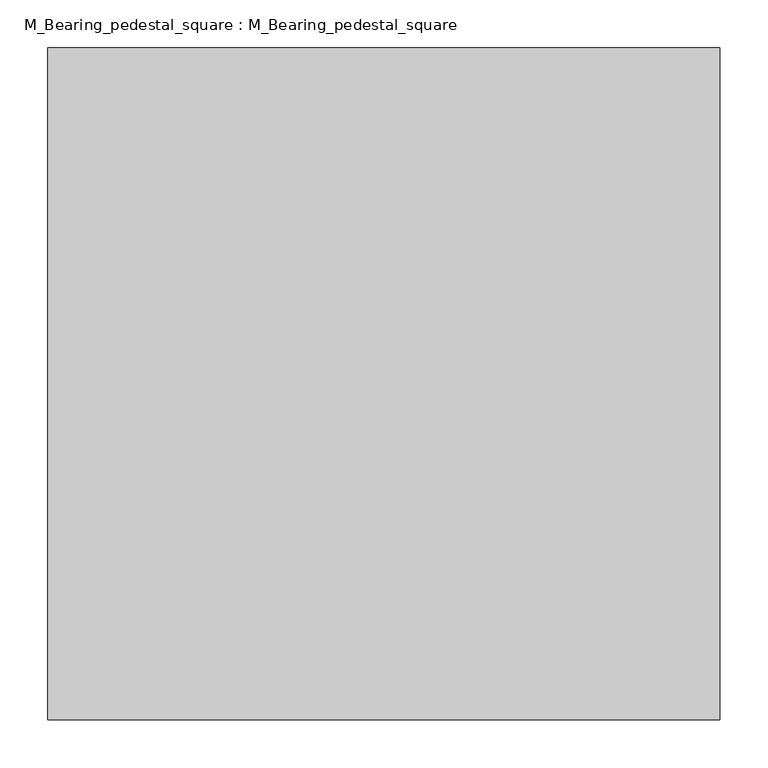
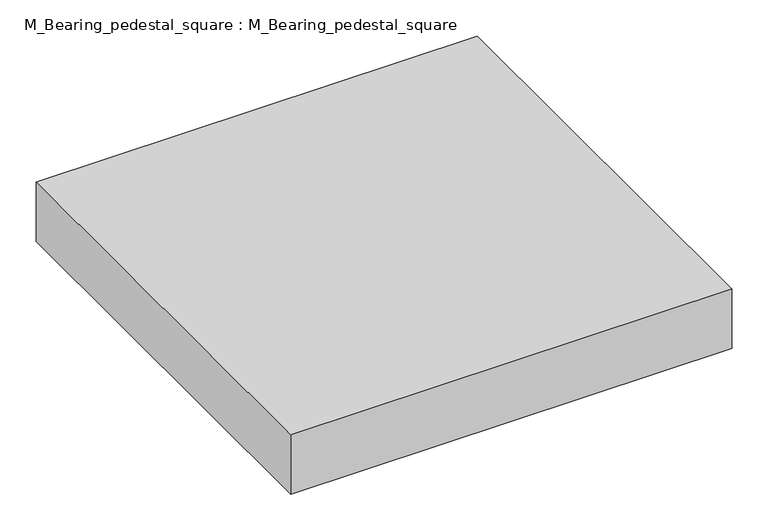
"""IFC4 building model written with IfcOpenShell, lengths in millimetres: proxy geometry, M_Bearing_pedestal_square : M_Bearing_pedestal_square."""

import ifcopenshell
import ifcopenshell.guid

model = None  # the IFC model being written
_history = None  # IfcOwnerHistory: only IFC2X3 demands one
_inside = {}  # id of a spatial element -> (the spatial element, [elements in it])
_under = {}  # id of a project, library or spatial element -> (it, [spatial elements below it])
_declared = {}  # id of a project -> (the project, [libraries it declares])
_typed = {}  # id of a type object -> (the type object, [elements of that type])
_made_of = {}  # id of a material, layer set ... -> (it, [elements and type objects made of it])


def new_model(schema):
    """Start an empty IFC model of exactly this schema.

    Asked for "IFC4X3", IfcOpenShell would pick the latest addendum, in which some entities
    have other attributes; the version numbers below select the first issue.
    IFC2X3 requires an IfcOwnerHistory on every rooted entity: one is made here for all.
    """
    global model, _history
    if schema == "IFC4X3":
        model = ifcopenshell.file(schema_version=(4, 3, 0, 0))
    else:
        model = ifcopenshell.file(schema=schema)
    _inside.clear()
    _under.clear()
    _declared.clear()
    _typed.clear()
    _made_of.clear()
    _history = None
    if model.schema == "IFC2X3":
        org = make("IfcOrganization", Name="unknown")
        user = make(
            "IfcPersonAndOrganization",
            ThePerson=make("IfcPerson", FamilyName="unknown"),
            TheOrganization=org,
        )
        app = make(
            "IfcApplication",
            ApplicationDeveloper=org,
            Version="unknown",
            ApplicationFullName="unknown",
            ApplicationIdentifier="unknown",
        )
        _history = make(
            "IfcOwnerHistory",
            OwningUser=user,
            OwningApplication=app,
            ChangeAction="ADDED",
            CreationDate=0,
        )
    return model


def make(cls, **values):
    """One entity of the class cls with the attributes given. An attribute that is None is left unset."""
    return model.create_entity(
        cls, **{name: value for name, value in values.items() if value is not None}
    )


def rooted(cls, **values):
    """An entity with a GlobalId (a new one), such as an element, a storey or a relation."""
    return make(cls, GlobalId=ifcopenshell.guid.new(), OwnerHistory=_history, **values)


def si_unit(unit_type, name, prefix=None):
    """IfcSIUnit, for example si_unit("LENGTHUNIT", "METRE", prefix="MILLI")."""
    return make("IfcSIUnit", UnitType=unit_type, Prefix=prefix, Name=name)


def assignment(units):
    """IfcUnitAssignment: the units of a project."""
    return None if units is None else make("IfcUnitAssignment", Units=units)


def point(xyz):
    """IfcCartesianPoint."""
    return None if xyz is None else make("IfcCartesianPoint", Coordinates=xyz)


def direction(xyz):
    """IfcDirection."""
    return None if xyz is None else make("IfcDirection", DirectionRatios=xyz)


def frame(location, z_axis=None, x_axis=None):
    """IfcAxis2Placement3D, a coordinate frame: its origin and axes. An axis left out is left unset."""
    return make(
        "IfcAxis2Placement3D",
        Location=point(location),
        Axis=direction(z_axis),
        RefDirection=direction(x_axis),
    )


def origin():
    """The frame at (0, 0, 0) with its axes left unset."""
    return frame((0.0, 0.0, 0.0))


def place(relative_to, where):
    """IfcLocalPlacement: puts the frame where relative to a parent placement (None: the world)."""
    return make(
        "IfcLocalPlacement", PlacementRelTo=relative_to, RelativePlacement=where
    )


def context(
    kind, dimensions, precision=None, world=None, true_north=None, identifier=None
):
    """IfcGeometricRepresentationContext, for example the 3D "Model" context."""
    return make(
        "IfcGeometricRepresentationContext",
        ContextIdentifier=identifier,
        ContextType=kind,
        CoordinateSpaceDimension=dimensions,
        Precision=precision,
        WorldCoordinateSystem=world,
        TrueNorth=true_north,
    )


def project(units=None, contexts=None):
    """IfcProject with its units and contexts."""
    return rooted(
        "IfcProject",
        Name="project",
        RepresentationContexts=contexts,
        UnitsInContext=assignment(units),
    )


def spatial(cls, under=None, at=None, **own):
    """A site, building, storey or space (cls), placed at a placement, below another one or the project."""
    s = rooted(cls, ObjectPlacement=at, **own)
    if under is not None:
        _under.setdefault(under.id(), (under, []))[1].append(s)
    return s


def polyline(points):
    """IfcPolyline through the points."""
    return make("IfcPolyline", Points=[point(p) for p in points])


def outline(outer, holes=None, kind="AREA"):
    """IfcArbitraryClosedProfileDef: a profile drawn as a closed curve; with holes, ...WithVoids."""
    if holes is None:
        return make("IfcArbitraryClosedProfileDef", ProfileType=kind, OuterCurve=outer)
    return make(
        "IfcArbitraryProfileDefWithVoids",
        ProfileType=kind,
        OuterCurve=outer,
        InnerCurves=holes,
    )


def extrude(swept, where, along, depth):
    """IfcExtrudedAreaSolid: the profile swept, set in the frame where, extruded along a direction by depth."""
    return make(
        "IfcExtrudedAreaSolid",
        SweptArea=swept,
        Position=where,
        ExtrudedDirection=direction(along),
        Depth=depth,
    )


def shape(context_of_items, identifier, shape_type, items):
    """IfcShapeRepresentation: the items that make up one representation, for example the "Body"."""
    return make(
        "IfcShapeRepresentation",
        ContextOfItems=context_of_items,
        RepresentationIdentifier=identifier,
        RepresentationType=shape_type,
        Items=items,
    )


def source(mapping_origin, context_of_items, identifier, shape_type, items):
    """IfcRepresentationMap: a shape defined once, which mapped items show again and again."""
    return make(
        "IfcRepresentationMap",
        MappingOrigin=mapping_origin,
        MappedRepresentation=shape(context_of_items, identifier, shape_type, items),
    )


def transform(
    local_origin,
    x_axis=None,
    y_axis=None,
    z_axis=None,
    scale=None,
    scale2=None,
    scale3=None,
    uniform=True,
):
    """IfcCartesianTransformationOperator3D, or its non-uniform kind. x_axis, y_axis, z_axis: its Axis1, 2, 3."""
    if uniform:
        return make(
            "IfcCartesianTransformationOperator3D",
            Axis1=direction(x_axis),
            Axis2=direction(y_axis),
            LocalOrigin=point(local_origin),
            Scale=scale,
            Axis3=direction(z_axis),
        )
    return make(
        "IfcCartesianTransformationOperator3DnonUniform",
        Axis1=direction(x_axis),
        Axis2=direction(y_axis),
        LocalOrigin=point(local_origin),
        Scale=scale,
        Axis3=direction(z_axis),
        Scale2=scale2,
        Scale3=scale3,
    )


def mapped(mapping_source, mapping_target):
    """IfcMappedItem: shows the shape of a source again, moved by a transform."""
    return make(
        "IfcMappedItem", MappingSource=mapping_source, MappingTarget=mapping_target
    )


def made_of(thing, what):
    """Note that an element or type object is made of a material, layer set ...; save() writes the relation."""
    if what is not None:
        _made_of.setdefault(what.id(), (what, []))[1].append(thing)
    return thing


def element(
    cls,
    number,
    at=None,
    inside=None,
    cuts=None,
    type_object=None,
    material=None,
    context=None,
    identifier="Body",
    shape_type=None,
    held_by="IfcProductDefinitionShape",
    body=None,
    shapes=None,
    **own,
):
    """One element of the class cls, such as IfcWall. Its Tag is "e" and its number.

    at: its placement. inside: the storey or other place that contains it. cuts: it is an
    opening in that element (IfcRelVoidsElement). A single representation is given by context,
    identifier, shape_type and body (its items); several are given by shapes. held_by: the class
    of the entity that holds the representations. save() writes the other relations.
    """
    e = rooted(cls, Tag="e%d" % number, ObjectPlacement=at, **own)
    if body is not None:
        shapes = [shape(context, identifier, shape_type, body)]
    if shapes is not None:
        e.Representation = make(held_by, Representations=shapes)
    if inside is not None:
        _inside.setdefault(inside.id(), (inside, []))[1].append(e)
    if cuts is not None:
        rooted(
            "IfcRelVoidsElement", RelatingBuildingElement=cuts, RelatedOpeningElement=e
        )
    if type_object is not None:
        _typed.setdefault(type_object.id(), (type_object, []))[1].append(e)
    return made_of(e, material)


def aggregate(whole, parts):
    """IfcRelAggregates: a whole, such as a stair, and the parts it consists of."""
    return rooted("IfcRelAggregates", RelatingObject=whole, RelatedObjects=parts)


def save(model, path):
    """Write the relations noted so far, then the file.

    IfcRelAggregates (storeys below a building ...), IfcRelContainedInSpatialStructure (elements
    in a storey), IfcRelDefinesByType, IfcRelAssociatesMaterial and IfcRelDeclares: one each for
    every whole, place, type object, material and project.
    """
    for whole, parts in _under.values():
        aggregate(whole, parts)
    for where, things in _inside.values():
        rooted(
            "IfcRelContainedInSpatialStructure",
            RelatedElements=things,
            RelatingStructure=where,
        )
    for kind, things in _typed.values():
        rooted("IfcRelDefinesByType", RelatedObjects=things, RelatingType=kind)
    for what, things in _made_of.values():
        rooted("IfcRelAssociatesMaterial", RelatedObjects=things, RelatingMaterial=what)
    for by, libraries in _declared.values():
        rooted("IfcRelDeclares", RelatingContext=by, RelatedDefinitions=libraries)
    model.write(path)


def m_bearing_pedestal_square_m_bearing_pedestal_square_b3e131c9(model_context):
    return source(origin(), model_context, "Body", "SweptSolid", [
        extrude(outline(polyline([(-350.0, -350.0), (-350.0, 350.0), (350.0, 350.0), (350.0, -350.0), (-350.0, -350.0)])), frame((0.0, 0.0, -100.0), z_axis=(0.0, 0.0, 1.0), x_axis=(1.0, 0.0, 0.0)), (0.0, 0.0, 1.0), 100.0),
    ])


if __name__ == "__main__":
    model = new_model("IFC4")
    model_context = context("Model", 3, world=origin())
    ifc_project = project(units=[si_unit("LENGTHUNIT", "METRE", prefix="MILLI")], contexts=[model_context])
    site = spatial("IfcSite", under=ifc_project)
    building = spatial("IfcBuilding", under=site)
    placement = place(None, origin())
    m_bearing_pedestal_square_m_bearing_pedestal_square_shape = m_bearing_pedestal_square_m_bearing_pedestal_square_b3e131c9(model_context)
    element("IfcBuildingElementProxy", 1, Name="M_Bearing_pedestal_square : M_Bearing_pedestal_square", ObjectType="M_Bearing_pedestal_square : M_Bearing_pedestal_square", at=placement, inside=building, context=model_context, shape_type="MappedRepresentation", body=[
        mapped(m_bearing_pedestal_square_m_bearing_pedestal_square_shape, transform((0.0, 0.0, 0.0), x_axis=(1.0, 0.0, 0.0), y_axis=(0.0, 1.0, 0.0), z_axis=(0.0, 0.0, 1.0))),
    ])
    save(model, "model.ifc")
